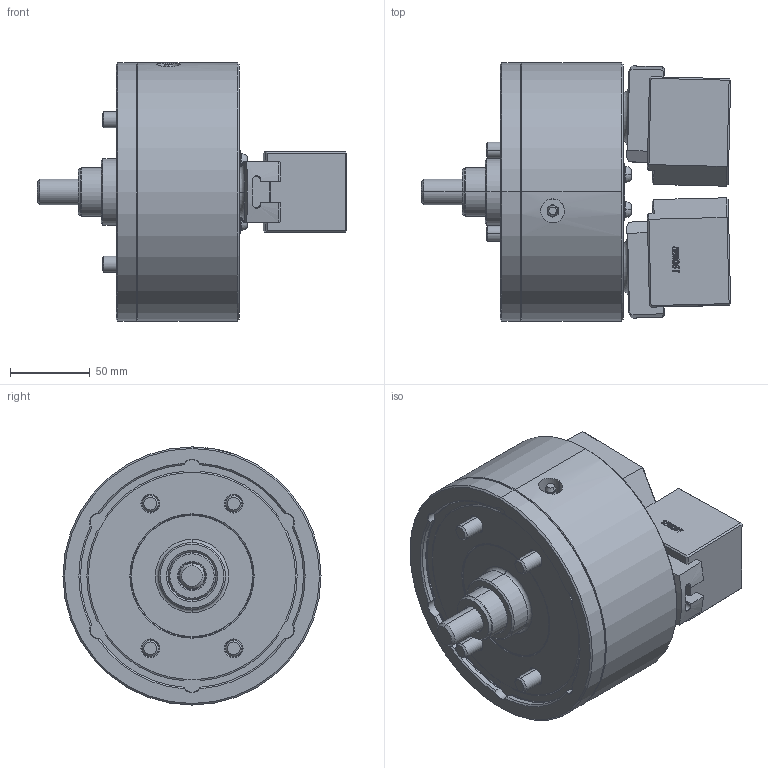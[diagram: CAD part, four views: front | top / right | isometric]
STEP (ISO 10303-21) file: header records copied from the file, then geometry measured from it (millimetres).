
FILE_DESCRIPTION (( 'STEP AP214' ), '1' );
FILE_NAME ('PWT06_OC_OD.STEP', '2019-10-21T02:22:41', ( '' ), ( '' ), 'SwSTEP 2.0', 'SolidWorks 2017', '' );
FILE_SCHEMA (( 'AUTOMOTIVE_DESIGN' ));
Length unit declared in the file: millimetre
Products named in the file (5): 結合_OD; 0030110016; 61P422013; 61P332343; PWT06_OC_OD
Assembly tree (9 placements, depth 2):
  PWT06_OC_OD
    61P332343  x2
    61P422013  x2
    0030110016  x4
    結合_OD
Bounding box: 194.16 x 162 x 162 mm (x, y, z)
Volume: 1869731.2 mm3; surface area: 198085.7 mm2
Topology: 9 solids, 10 shells, 1692 faces, 4220 edges, 2665 vertices
Faces by surface type: plane 813, bspline 329, cone 262, cylinder 228, torus 56, sphere 4
Entity records: 51779 total; most frequent: CARTESIAN_POINT 20019, ORIENTED_EDGE 6970, DIRECTION 5703, EDGE_CURVE 3485, VERTEX_POINT 2214, LINE 1919, VECTOR 1919, AXIS2_PLACEMENT_3D 1892
